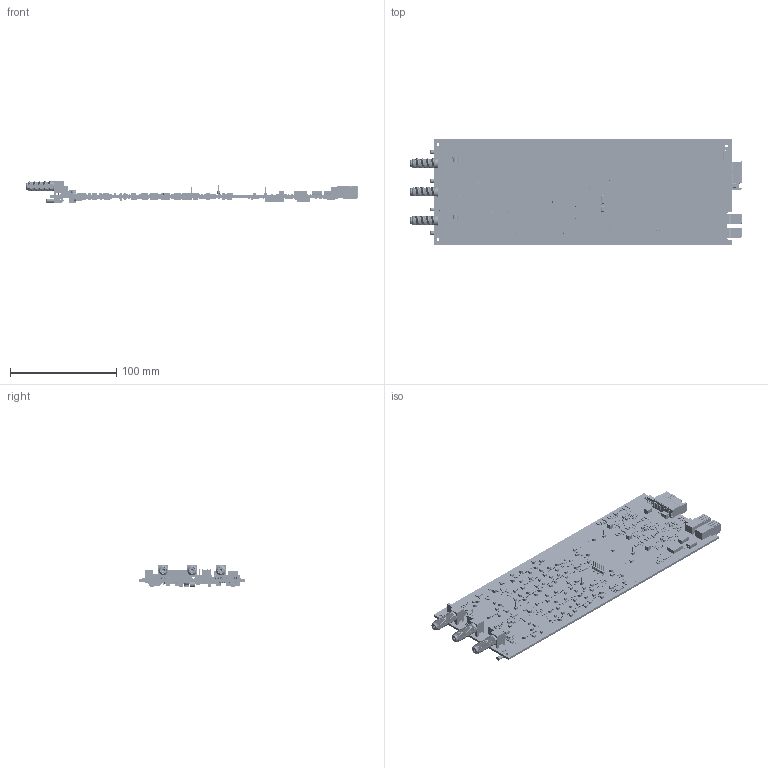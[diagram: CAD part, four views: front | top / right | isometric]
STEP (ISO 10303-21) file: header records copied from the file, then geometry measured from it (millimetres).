
FILE_DESCRIPTION(('STEP AP214'),'1');
FILE_NAME('RCU2_HB.step','2022-04-08T14:47:44',(' '),(' '),'Spatial InterOp 3D','XD3DPlugin XRACreate',' ');
FILE_SCHEMA(('automotive_design'));
Length unit declared in the file: millimetre
Products named in the file (413): Submodel-AssyDefn_6; WE-CBF_0402_CBF (rev1).sat; RCU2_HB; Submodel-AssyDefn_5; AST00657.sat; Submodel-M:\VIEWlogic\Projects\LOFAR_2\RCU2.0\RCU2_HB\HB_Rev3\PCB\Layout\3D\Input_S\PCF-W0603LF-03-8452-F-P-LT.xtd; PCF-W0603LF-03-8452-F-P-LT; Submodel-RES0603_PYG_part_simplified_RESC1608X55N_PYG; DesignRootModel; Submodel-M:\VIEWlogic\Projects\LOFAR_2\RCU2.0\RCU2_HB\HB_Rev3\PCB\Layout\3D\Input_S\PAT0402E1001BST1.xtd; PAT0402E1001BST1; Submodel-RES0402_CRCW_VH_part_simplified_RESC1005X40N_VH; Submodel-M:\VIEWlogic\Projects\LOFAR_2\RCU2.0\RCU2_HB\HB_Rev3\PCB\Layout\3D\Input_S\04023J5R1BBSTR.xtd; 04023J5R1BBSTR; Submodel-CAP0402_MRT_part_simplified_CAPC1005X55N_MRT; Submodel-M:\VIEWlogic\Projects\LOFAR_2\RCU2.0\RCU2_HB\HB_Rev3\PCB\Layout\3D\Input_S\cap_UMK107ABJ474KA-T_TAY.xtd; cap_UMK107ABJ474KA-T_TAY; Submodel-CAP0603_TY_part_simplified_CAPC1608X80N_TY; Submodel-M:\VIEWlogic\Projects\LOFAR_2\RCU2.0\RCU2_HB\HB_Rev3\PCB\Layout\3D\Input_S\Coilcraft-1008CS.xtd; Coilcraft-1008CS; Submodel-IND1008_CC_part_simplified_INDC2520X203N_CC; Submodel-M:\VIEWlogic\Projects\LOFAR_2\RCU2.0\RCU2_HB\HB_Rev3\PCB\Layout\3D\Input_S\GRM1885C1H682JA01D.xtd; GRM1885C1H682JA01D; Submodel-CAP0603_PYG_part_simplified_CAPC1608X145N_PYG; Submodel-M:\VIEWlogic\Projects\LOFAR_2\RCU2.0\RCU2_HB\HB_Rev3\PCB\Layout\3D\Input_S\GRM188R72A104KA35J.xtd; GRM188R72A104KA35J; Submodel-CAP0603_MRT_part_simplified_CAPC1608X90N_MRT; Submodel-M:\VIEWlogic\Projects\LOFAR_2\RCU2.0\RCU2_HB\HB_Rev3\PCB\Layout\3D\Input_S\BSS138Q-7-F.xtd; BSS138Q-7-F; Submodel-BSS138_part_simplified_SOT95P240X150-3N2_FC; Submodel-M:\VIEWlogic\Projects\LOFAR_2\RCU2.0\RCU2_HB\HB_Rev3\PCB\Layout\3D\Input_S\ADA4961ACPZN-R7.xtd; ADA4961ACPZN-R7; Submodel-ADA4961_part_simplified_QFN50P400X400X80-25N_AD; Submodel-M:\VIEWlogic\Projects\LOFAR_2\RCU2.0\RCU2_HB\HB_Rev3\PCB\Layout\3D\Input_S\TCM2-1T+.xtd; TCM2-1T+; Submodel-TCM2_1T_part_simplified_SOTFL127P406X406R-6N_MC; Submodel-M:\VIEWlogic\Projects\LOFAR_2\RCU2.0\RCU2_HB\HB_Rev3\PCB\Layout\3D\Input_S\NB7L14MNHTBG.xtd; NB7L14MNHTBG; Submodel-NB7L14_part_simplified_QFN50P300X300X100-17N2_ONS; Submodel-M:\VIEWlogic\Projects\LOFAR_2\RCU2.0\RCU2_HB\HB_Rev3\PCB\Layout\3D\Input_S\SOIC_10-C2-GT_SIL.xtd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
Assembly tree (1789 placements, depth 5):
  RCU2_HB
    Submodel-AssyDefn_6
      WE-CBF_0402_CBF (rev1).sat
    Submodel-AssyDefn_5  x4
      AST00657.sat
    DesignRootModel
      Submodel-RES0603_PYG_part_simplified_RESC1608X55N_PYG  x99
        Submodel-M:\VIEWlogic\Projects\LOFAR_2\RCU2.0\RCU2_HB\HB_Rev3\PCB\Layout\3D\Input_S\PCF-W0603LF-03-8452-F-P-LT.xtd
          PCF-W0603LF-03-8452-F-P-LT
      Submodel-RES0402_CRCW_VH_part_simplified_RESC1005X40N_VH  x268
        Submodel-M:\VIEWlogic\Projects\LOFAR_2\RCU2.0\RCU2_HB\HB_Rev3\PCB\Layout\3D\Input_S\PAT0402E1001BST1.xtd
          PAT0402E1001BST1
      Submodel-CAP0402_MRT_part_simplified_CAPC1005X55N_MRT  x280
        Submodel-M:\VIEWlogic\Projects\LOFAR_2\RCU2.0\RCU2_HB\HB_Rev3\PCB\Layout\3D\Input_S\04023J5R1BBSTR.xtd
          04023J5R1BBSTR
      Submodel-CAP0603_TY_part_simplified_CAPC1608X80N_TY  x26
        Submodel-M:\VIEWlogic\Projects\LOFAR_2\RCU2.0\RCU2_HB\HB_Rev3\PCB\Layout\3D\Input_S\cap_UMK107ABJ474KA-T_TAY.xtd
          cap_UMK107ABJ474KA-T_TAY
      Submodel-IND1008_CC_part_simplified_INDC2520X203N_CC  x156
        Submodel-M:\VIEWlogic\Projects\LOFAR_2\RCU2.0\RCU2_HB\HB_Rev3\PCB\Layout\3D\Input_S\Coilcraft-1008CS.xtd
          Coilcraft-1008CS
      Submodel-CAP0603_PYG_part_simplified_CAPC1608X145N_PYG  x27
        Submodel-M:\VIEWlogic\Projects\LOFAR_2\RCU2.0\RCU2_HB\HB_Rev3\PCB\Layout\3D\Input_S\GRM1885C1H682JA01D.xtd
          GRM1885C1H682JA01D
      Submodel-CAP0603_MRT_part_simplified_CAPC1608X90N_MRT  x142
        Submodel-M:\VIEWlogic\Projects\LOFAR_2\RCU2.0\RCU2_HB\HB_Rev3\PCB\Layout\3D\Input_S\GRM188R72A104KA35J.xtd
          GRM188R72A104KA35J
      Submodel-BSS138_part_simplified_SOT95P240X150-3N2_FC  x4
        Submodel-M:\VIEWlogic\Projects\LOFAR_2\RCU2.0\RCU2_HB\HB_Rev3\PCB\Layout\3D\Input_S\BSS138Q-7-F.xtd
          BSS138Q-7-F
      Submodel-ADA4961_part_simplified_QFN50P400X400X80-25N_AD  x3
        Submodel-M:\VIEWlogic\Projects\LOFAR_2\RCU2.0\RCU2_HB\HB_Rev3\PCB\Layout\3D\Input_S\ADA4961ACPZN-R7.xtd
          ADA4961ACPZN-R7
      Submodel-TCM2_1T_part_simplified_SOTFL127P406X406R-6N_MC  x3
        Submodel-M:\VIEWlogic\Projects\LOFAR_2\RCU2.0\RCU2_HB\HB_Rev3\PCB\Layout\3D\Input_S\TCM2-1T+.xtd
          TCM2-1T+
      Submodel-NB7L14_part_simplified_QFN50P300X300X100-17N2_ONS  x2
        Submodel-M:\VIEWlogic\Projects\LOFAR_2\RCU2.0\RCU2_HB\HB_Rev3\PCB\Layout\3D\Input_S\NB7L14MNHTBG.xtd
          NB7L14MNHTBG
      Submodel-SI4012_part_simplified_SOP10P50_300X490X110L60X25N_SL  x3
        Submodel-M:\VIEWlogic\Projects\LOFAR_2\RCU2.0\RCU2_HB\HB_Rev3\PCB\Layout\3D\Input_S\SOIC_10-C2-GT_SIL.xtd
          SOIC_10-C2-GT_SIL
      Submodel-MAX17613A_B_part_simplified_QFN50P400X400X80-21N_MX  x3
        Submodel-M:\VIEWlogic\Projects\LOFAR_2\RCU2.0\RCU2_HB\HB_Rev3\PCB\Layout\3D\Input_S\MAX17613AATP+.xtd
          MAX17613AATP+
      Submodel-TCA9539PWR_part_simplified_SOP65P640X120-24N2_TI  x3
        Submodel-M:\VIEWlogic\Projects\LOFAR_2\RCU2.0\RCU2_HB\HB_Rev3\PCB\Layout\3D\Input_S\TCA9539PWR.xtd
          TCA9539PWR
      Submodel-FB0603_WRT_part_simplified_INDC1608X100N_WRT  x16
        Submodel-M:\VIEWlogic\Projects\LOFAR_2\RCU2.0\RCU2_HB\HB_Rev3\PCB\Layout\3D\Input_S\L1608.xtd
          L1608
      Submodel-CAPPE_AVX_part_simplified_CAPMP7344X430NB_AVX  x9
        Submodel-M:\VIEWlogic\Projects\LOFAR_2\RCU2.0\RCU2_HB\HB_Rev3\PCB\Layout\3D\Input_S\xd_capcm_30.xtd
          xd_capcm_30
      Submodel-MCLED1210_part_simplified_DIOCAV140P320X270X130-4N_FC  x6
        Submodel-M:\VIEWlogic\Projects\LOFAR_2\RCU2.0\RCU2_HB\HB_Rev3\PCB\Layout\3D\Input_S\LTST-C155GYKT--3DModel-STEP-56544.xtd
          LTST-C155GYKT--3DModel-STEP-56544
      Submodel-BNX028_01_part_simplified_MURATA_BNX028H01  x2
        Submodel-M:\VIEWlogic\Projects\LOFAR_2\RCU2.0\RCU2_HB\HB_Rev3\PCB\Layout\3D\Input_S\BNX028-01L--3DModel-STEP-1 AST02147.xtd
          BNX028-01L--3DModel-STEP-1 AST02147
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Bounding box: 312.51 x 100 x 21.59 mm (x, y, z)
Volume: 89332.1 mm3; surface area: 100462.9 mm2
Topology: 2944 solids, 3368 shells, 34345 faces, 80190 edges, 51125 vertices
Faces by surface type: plane 25259, cylinder 6370, sphere 1496, torus 726, bspline 370, cone 124
Full cylindrical faces by diameter (mm): 0.09 x1, 0.15 x3, 0.25 x3, 0.255 x1, 0.375 x11, 0.5 x20, 0.55 x3, 1.5 x1, 1.581 x10, 1.93 x8, 2.7 x3, 3.8 x1
Entity records: 267335 total; most frequent: CARTESIAN_POINT 46312, DIRECTION 31370, ORIENTED_EDGE 27878, EDGE_CURVE 14232, LINE 12146, VECTOR 12146, AXIS2_PLACEMENT_3D 9612, VERTEX_POINT 9513
